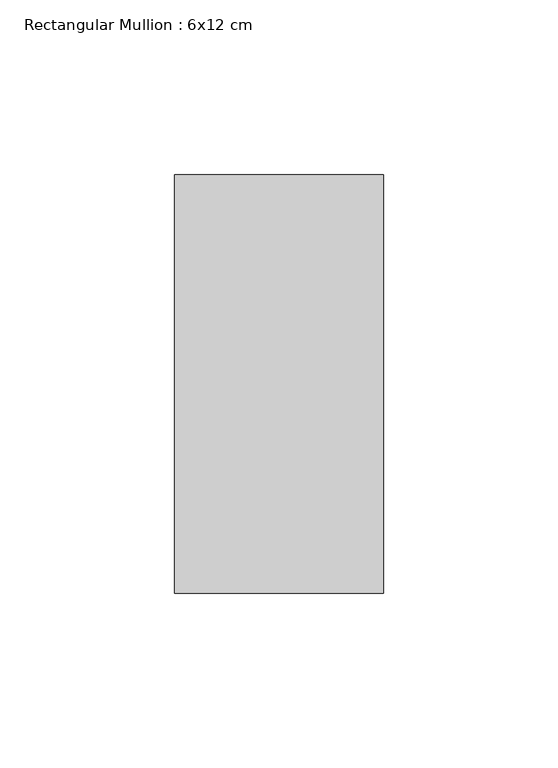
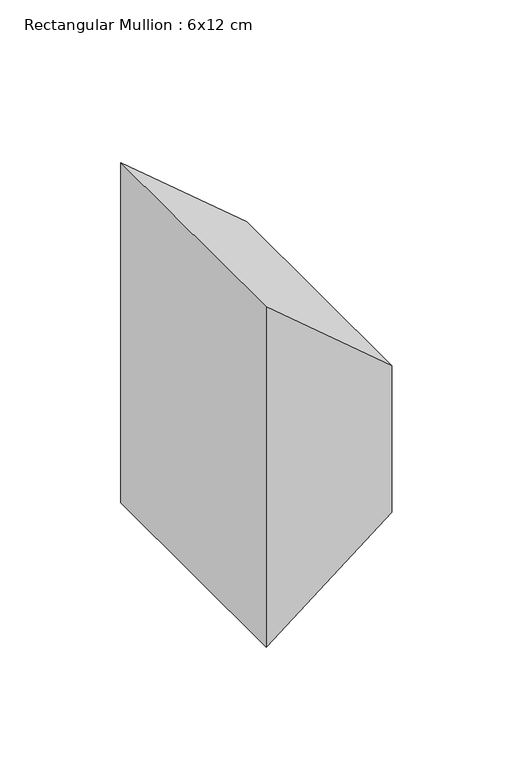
"""IFC4 building model written with IfcOpenShell, lengths in millimetres: member geometry, Rectangular Mullion : 6x12 cm."""

from ifc_helpers import new_model, si_unit, frame, origin, place, context, project, spatial, polyline, outline, extrude, source, transform, mapped, element, save


def rectangular_mullion_6x12_cm_f551efca(model_context):
    return source(origin(), model_context, "Body", "SweptSolid", [
        extrude(outline(polyline([(-104.1141863, 30.0), (-53.2294579, -30.0), (-224.9369603, -30.0), (-177.821471, 30.0), (-104.1141863, 30.0)])), frame((0.0, 85.0, 0.0), z_axis=(0.0, 1.0, 0.0), x_axis=(0.0, 0.0, 1.0)), (0.0, 0.0, 1.0), 120.0),
    ])


if __name__ == "__main__":
    model = new_model("IFC4")
    model_context = context("Model", 3, world=origin())
    ifc_project = project(units=[si_unit("LENGTHUNIT", "METRE", prefix="MILLI")], contexts=[model_context])
    site = spatial("IfcSite", under=ifc_project)
    building = spatial("IfcBuilding", under=site)
    placement = place(None, origin())
    rectangular_mullion_6x12_cm_shape = rectangular_mullion_6x12_cm_f551efca(model_context)
    element("IfcMember", 1, ObjectType="Rectangular Mullion : 6x12 cm", at=placement, inside=building, context=model_context, shape_type="MappedRepresentation", body=[
        mapped(rectangular_mullion_6x12_cm_shape, transform((0.0, 0.0, 0.0), x_axis=(1.0, 0.0, 0.0), y_axis=(0.0, 1.0, 0.0), z_axis=(0.0, 0.0, 1.0))),
    ])
    save(model, "model.ifc")
